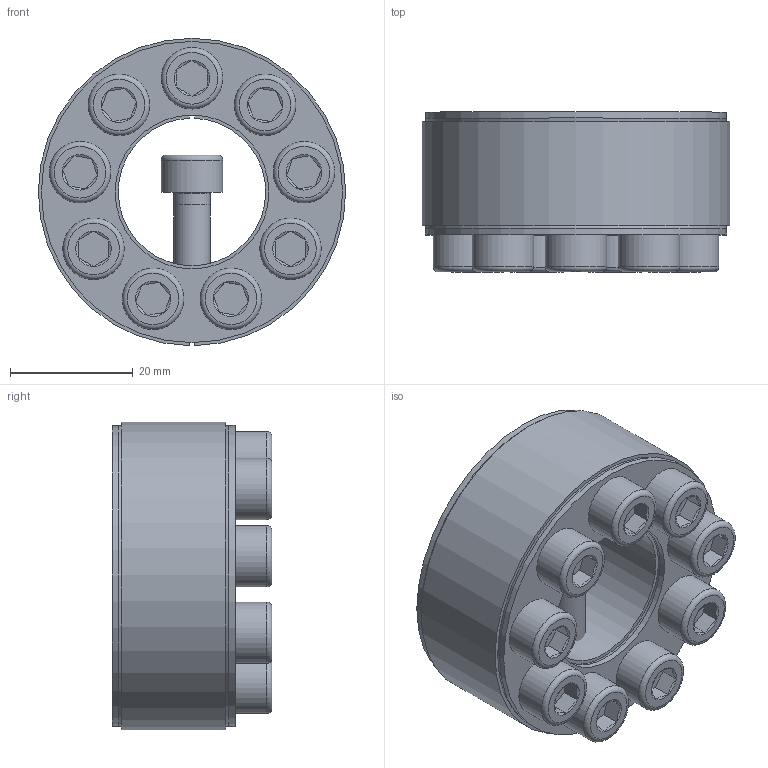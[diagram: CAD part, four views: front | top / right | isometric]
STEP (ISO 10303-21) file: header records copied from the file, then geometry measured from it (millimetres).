
FILE_DESCRIPTION( ( 'Unknown' ), '1' );
FILE_NAME( 'C:/Dokumente und Einstellungen/Sven/Desktop/homepage/cad - homepage/KBS40/KBS 40 - 24 x 50.stp', 'Unknown', ( 'Unknown' ), ( 'Unknown' ), 'XStep 1.0', 'Unknown', ' ' );
FILE_SCHEMA( ( 'automotive_design' ) );
Length unit declared in the file: millimetre
Products named in the file (11): Assem1; KBS 40 24x50; ISO 4762 M6x18; ISO 4762 M6x18-oa0; ISO 4762 M6x18-oa1; ISO 4762 M6x18-oa2; ISO 4762 M6x18-oa3; ISO 4762 M6x18-oa4; ISO 4762 M6x18-oa5; ISO 4762 M6x18-oa6; ISO 4762 M6x18-oa7
Bounding box: 50 x 26 x 50 mm (x, y, z)
Surface area: 34605.7 mm2
Topology: 20 solids, 20 shells, 528 faces, 986 edges, 570 vertices
Faces by surface type: plane 256, cone 134, cylinder 102, torus 36
Full cylindrical faces by diameter (mm): 5 x18, 6 x54, 10 x18, 25 x4, 49 x4
Entity records: 6594 total; most frequent: CARTESIAN_POINT 1347, DIRECTION 1080, ORIENTED_EDGE 786, AXIS2_PLACEMENT_3D 466, EDGE_LOOP 400, EDGE_CURVE 393, FACE_OUTER_BOUND 331, VERTEX_POINT 265
